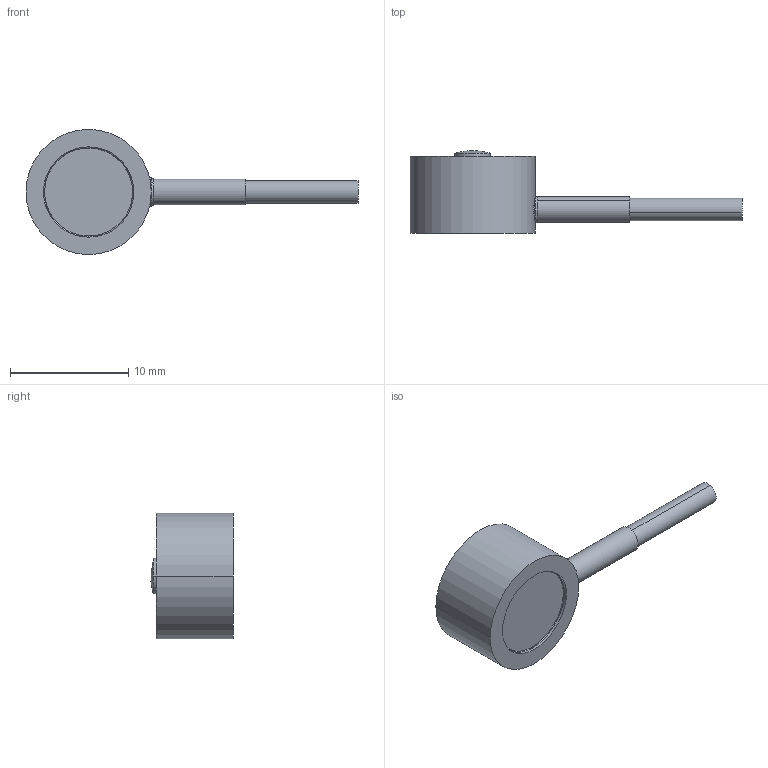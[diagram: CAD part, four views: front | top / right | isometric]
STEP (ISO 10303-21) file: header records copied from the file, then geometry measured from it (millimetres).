
FILE_DESCRIPTION(('STEP AP203'),'1');
FILE_NAME('C:/TPO v2/SharedFS/Outgoing/burster_8416-6002_8ulcc01w222pdboidtig1qq1h.stp','2013-08-28T19:57:17',('TraceParts'),('TraceParts S.A.'),'XStep 1.0',' ',' ');
FILE_SCHEMA(('CONFIG_CONTROL_DESIGN'));
Length unit declared in the file: millimetre
Products named in the file (1): 1
Bounding box: 28.1 x 6.97 x 10.6 mm (x, y, z)
Volume: 579.3 mm3; surface area: 560.3 mm2
Topology: 1 solids, 1 shells, 37 faces, 90 edges, 59 vertices
Faces by surface type: cylinder 18, torus 8, plane 6, cone 4, sphere 1
Entity records: 1225 total; most frequent: CARTESIAN_POINT 261, DIRECTION 221, ORIENTED_EDGE 180, AXIS2_PLACEMENT_3D 101, EDGE_CURVE 90, CIRCLE 63, VERTEX_POINT 59, EDGE_LOOP 41
